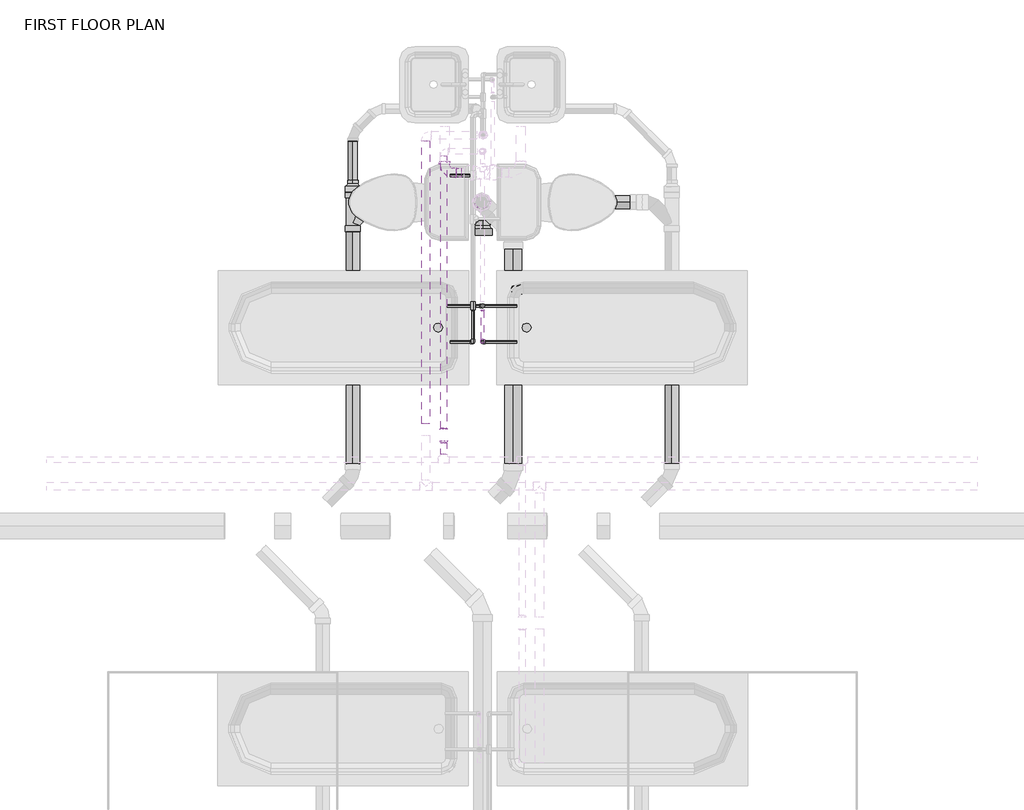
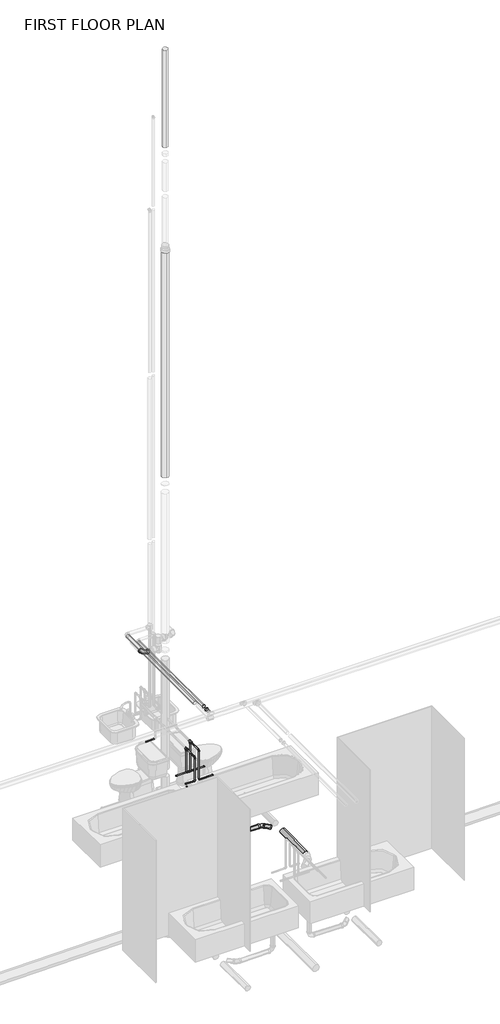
# One storey, part 8 of 29: 32 pipe segments, 25 pipe fittings.
"""IFC4 building model written with IfcOpenShell, lengths in millimetres."""

from ifc_helpers import new_model, si_unit, point, frame, frame_2d, origin, place, context, project, spatial, circle_curve, trimmed, segment, composite_curve, outline, extrude, transform, mapped, element, save
from ifc_brep_helpers import plane_surface, cylinder_surface, advanced_brep
from components import bend_pvc_sch_40_dwv_standard_e287c2f6, bend_pvc_sch_40_dwv_standard_e6a60135, bend_pvc_sch_40_dwv_standard_22595671, bend_pvc_sch_40_dwv_standard_3c7622ae, bend_pvc_sch_40_dwv_standard_00a057dc, bend_pvc_sch_40_dwv_standard_52eb40f7, bend_pvc_sch_40_dwv_standard_1eaeee76, pipe_elbow_copper_k_aad62f2d, pipe_tee_copper_k_ee363fbf, pipe_transition_copper_k_c7248b3c, pipe_transition_copper_k_3b8d3413, pipe_transition_copper_k_859ff352, reducer_pvc_sch_40_dwv_standard_f8e5081b, reducer_pvc_sch_40_dwv_standard_091619c8, reducer_pvc_sch_40_dwv_standard_bc2808fd, standard_97f78eeb

model = new_model("IFC4")

# Units and contexts
model_context = context("Model", 3, world=origin())
ifc_project = project(units=[si_unit("LENGTHUNIT", "METRE", prefix="MILLI")], contexts=[model_context])

# Site, building, storey
site = spatial("IfcSite", under=ifc_project)
building = spatial("IfcBuilding", under=site)
storey = spatial("IfcBuildingStorey", under=building, Name="FIRST FLOOR PLAN", Elevation=0.0)

# Pipe fittings
placement = place(None, origin())
bend_pvc_sch_40_dwv_standard_shape = bend_pvc_sch_40_dwv_standard_e287c2f6(model_context)
element("IfcPipeFitting", 1, ObjectType="Bend - PVC - Sch 40 - DWV : Standard", at=placement, inside=storey, context=model_context, shape_type="MappedRepresentation", body=[
    mapped(bend_pvc_sch_40_dwv_standard_shape, transform((2412.9110397, 6841.7915202, -501.945561), x_axis=(0.0, 0.0, -1.0), y_axis=(1.0, 0.0, 0.0), z_axis=(0.0, -1.0, 0.0))),
])
bend_pvc_sch_40_dwv_standard_2_shape = bend_pvc_sch_40_dwv_standard_e6a60135(model_context)
element("IfcPipeFitting", 2, ObjectType="Bend - PVC - Sch 40 - DWV : Standard", at=placement, inside=storey, context=model_context, shape_type="MappedRepresentation", body=[
    mapped(bend_pvc_sch_40_dwv_standard_2_shape, transform((2505.0170959, 7680.8696257, -495.5213745), x_axis=(0.0, -5.143823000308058e-07, -0.9999999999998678), y_axis=(1.0000000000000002, 5.3581489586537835e-09, 0.0), z_axis=(5.358148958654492e-09, -0.9999999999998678, 5.143823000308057e-07))),
])
bend_pvc_sch_40_dwv_standard_3_shape = bend_pvc_sch_40_dwv_standard_22595671(model_context)
element("IfcPipeFitting", 3, ObjectType="Bend - PVC - Sch 40 - DWV : Standard", at=placement, inside=storey, context=model_context, shape_type="MappedRepresentation", body=[
    mapped(bend_pvc_sch_40_dwv_standard_3_shape, transform((3187.2899795, 6841.7915202, -510.0120083), x_axis=(-0.7066279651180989, 0.7075155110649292, 0.009935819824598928), y_axis=(-0.7075086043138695, -0.7066884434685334, 0.004797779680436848), z_axis=(0.010416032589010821, -0.0036394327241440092, 0.9999391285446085))),
])
bend_pvc_sch_40_dwv_standard_4_shape = bend_pvc_sch_40_dwv_standard_3c7622ae(model_context)
element("IfcPipeFitting", 4, ObjectType="Bend - PVC - Sch 40 - DWV : Standard", at=placement, inside=storey, context=model_context, shape_type="MappedRepresentation", body=[
    mapped(bend_pvc_sch_40_dwv_standard_4_shape, transform((1821.2384766, 6841.9049735, -530.9283284), x_axis=(0.0, 0.0, -1.0), y_axis=(1.0, 0.0, 0.0), z_axis=(0.0, -1.0, 0.0))),
])
bend_pvc_sch_40_dwv_standard_5_shape = bend_pvc_sch_40_dwv_standard_00a057dc(model_context)
element("IfcPipeFitting", 5, ObjectType="Bend - PVC - Sch 40 - DWV : Standard", at=placement, inside=storey, context=model_context, shape_type="MappedRepresentation", body=[
    mapped(bend_pvc_sch_40_dwv_standard_5_shape, transform((1729.1325491, 7681.1279062, -524.5036134), x_axis=(0.0, -5.143823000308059e-07, -0.9999999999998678), y_axis=(1.0000000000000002, 5.358148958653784e-09, 0.0), z_axis=(5.358148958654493e-09, -0.9999999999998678, 5.143823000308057e-07))),
])
bend_pvc_sch_40_dwv_standard_6_shape = bend_pvc_sch_40_dwv_standard_52eb40f7(model_context)
element("IfcPipeFitting", 6, ObjectType="Bend - PVC - Sch 40 - DWV : Standard", at=placement, inside=storey, context=model_context, shape_type="MappedRepresentation", body=[
    mapped(bend_pvc_sch_40_dwv_standard_6_shape, transform((1448.7167163, 6841.9049735, -534.8087634), x_axis=(0.7066279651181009, 0.7075155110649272, 0.009935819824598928), y_axis=(-0.7075086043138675, 0.7066884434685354, -0.004797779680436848), z_axis=(-0.010416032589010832, -0.003639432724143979, 0.9999391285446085))),
])
bend_pvc_sch_40_dwv_standard_7_shape = bend_pvc_sch_40_dwv_standard_1eaeee76(model_context)
element("IfcPipeFitting", 7, ObjectType="Bend - PVC - Sch 40 - DWV : Standard", at=placement, inside=storey, context=model_context, shape_type="MappedRepresentation", body=[
    mapped(bend_pvc_sch_40_dwv_standard_7_shape, transform((1864.3084875, 7876.8887644, 2285.9990858), x_axis=(0.0, -0.9999999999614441, 8.781345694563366e-06), y_axis=(1.0000000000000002, 0.0, 0.0), z_axis=(0.0, 8.781345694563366e-06, 0.9999999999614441))),
])
pipe_elbow_copper_k_shape = pipe_elbow_copper_k_aad62f2d(model_context)
element("IfcPipeFitting", 8, ObjectType="Pipe Elbow : Copper- K", at=placement, inside=storey, context=model_context, shape_type="MappedRepresentation", body=[
    mapped(pipe_elbow_copper_k_shape, transform((2118.3084875, 6746.0012881, 1219.2), x_axis=(0.0, -1.0, 0.0), y_axis=(0.0, 0.0, -1.0), z_axis=(1.0, 0.0, 0.0))),
])
element("IfcPipeFitting", 9, ObjectType="Pipe Elbow : Copper- K", at=placement, inside=storey, context=model_context, shape_type="MappedRepresentation", body=[
    mapped(pipe_elbow_copper_k_shape, transform((2118.3084875, 6746.0012881, 711.2), x_axis=(0.0, 0.0, -1.0), y_axis=(1.0, 0.0, 0.0), z_axis=(0.0, -1.0, 0.0))),
])
element("IfcPipeFitting", 10, ObjectType="Pipe Elbow : Copper- K", at=placement, inside=storey, context=model_context, shape_type="MappedRepresentation", body=[
    mapped(pipe_elbow_copper_k_shape, transform((2118.3084875, 6986.022219, 711.2), x_axis=(0.0, 0.0, -1.0), y_axis=(-1.0, 0.0, 0.0), z_axis=(0.0, 1.0, 0.0))),
])
element("IfcPipeFitting", 11, ObjectType="Pipe Elbow : Copper- K", at=placement, inside=storey, context=model_context, shape_type="MappedRepresentation", body=[
    mapped(pipe_elbow_copper_k_shape, transform((2054.8084875, 6746.0012881, 1117.6), x_axis=(0.0, -1.0, 0.0), y_axis=(0.0, 0.0, -1.0), z_axis=(1.0, 0.0, 0.0))),
])
element("IfcPipeFitting", 12, ObjectType="Pipe Elbow : Copper- K", at=placement, inside=storey, context=model_context, shape_type="MappedRepresentation", body=[
    mapped(pipe_elbow_copper_k_shape, transform((2054.8084875, 6746.0012881, 711.2), x_axis=(0.0, 0.0, -1.0), y_axis=(-1.0, 0.0, 0.0), z_axis=(0.0, 1.0, 0.0))),
])
element("IfcPipeFitting", 13, ObjectType="Pipe Elbow : Copper- K", at=placement, inside=storey, context=model_context, shape_type="MappedRepresentation", body=[
    mapped(pipe_elbow_copper_k_shape, transform((2054.8084875, 6986.022219, 711.2), x_axis=(0.0, 0.0, -1.0), y_axis=(1.0, 0.0, 0.0), z_axis=(0.0, -1.0, 0.0))),
])
pipe_tee_copper_k_shape = pipe_tee_copper_k_ee363fbf(model_context)
element("IfcPipeFitting", 14, ObjectType="Pipe Tee : Copper- K", at=placement, inside=storey, context=model_context, shape_type="MappedRepresentation", body=[
    mapped(pipe_tee_copper_k_shape, transform((2118.3084875, 6986.022219, 1219.2), x_axis=(0.0, 1.0, 0.0), y_axis=(0.0, 0.0, 1.0), z_axis=(1.0, 0.0, 0.0))),
])
element("IfcPipeFitting", 15, ObjectType="Pipe Tee : Copper- K", at=placement, inside=storey, context=model_context, shape_type="MappedRepresentation", body=[
    mapped(pipe_tee_copper_k_shape, transform((2054.8084875, 6986.022219, 1117.6), x_axis=(0.0, 1.0, 0.0), y_axis=(0.0, 0.0, 1.0), z_axis=(1.0, 0.0, 0.0))),
])
pipe_transition_copper_k_shape = pipe_transition_copper_k_c7248b3c(model_context)
element("IfcPipeFitting", 16, ObjectType="Pipe Transition : Copper- K", at=placement, inside=storey, context=model_context, shape_type="MappedRepresentation", body=[
    mapped(pipe_transition_copper_k_shape, transform((1858.4146104, 6166.9606631, 2413.0), x_axis=(0.0, -1.0, 0.0), y_axis=(1.0, 0.0, 0.0), z_axis=(0.0, 0.0, 1.0))),
])
pipe_transition_copper_k_2_shape = pipe_transition_copper_k_3b8d3413(model_context)
element("IfcPipeFitting", 17, ObjectType="Pipe Transition : Copper- K", at=placement, inside=storey, context=model_context, shape_type="MappedRepresentation", body=[
    mapped(pipe_transition_copper_k_2_shape, transform((1858.4146104, 6082.4897881, 2413.0), x_axis=(0.0, -1.0, 0.0), y_axis=(0.9999997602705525, 0.0, 0.0006924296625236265), z_axis=(-0.0006924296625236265, 0.0, 0.9999997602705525))),
])
pipe_transition_copper_k_3_shape = pipe_transition_copper_k_859ff352(model_context)
element("IfcPipeFitting", 18, ObjectType="Pipe Transition : Copper- K", at=placement, inside=storey, context=model_context, shape_type="MappedRepresentation", body=[
    mapped(pipe_transition_copper_k_3_shape, transform((2118.3084875, 6986.022219, 1192.2125), x_axis=(0.0, 0.0, -1.0), y_axis=(0.0, -1.0, 0.0), z_axis=(-1.0, 0.0, 0.0))),
])
element("IfcPipeFitting", 19, ObjectType="Pipe Transition : Copper- K", at=placement, inside=storey, context=model_context, shape_type="MappedRepresentation", body=[
    mapped(pipe_transition_copper_k_3_shape, transform((2054.8084875, 6986.022219, 1090.6125), x_axis=(0.0, 0.0, -1.0), y_axis=(0.0, 1.0, 0.0), z_axis=(1.0, 0.0, 0.0))),
])
element("IfcPipeFitting", 20, ObjectType="Pipe Transition : Copper- K", at=placement, inside=storey, context=model_context, shape_type="MappedRepresentation", body=[
    mapped(pipe_transition_copper_k_3_shape, transform((2118.3084875, 6959.034719, 1219.2), x_axis=(0.0, -1.0, 0.0), y_axis=(1.0, 0.0, 0.0), z_axis=(0.0, 0.0, 1.0))),
])
element("IfcPipeFitting", 21, ObjectType="Pipe Transition : Copper- K", at=placement, inside=storey, context=model_context, shape_type="MappedRepresentation", body=[
    mapped(pipe_transition_copper_k_3_shape, transform((2054.8084875, 6959.034719, 1117.6), x_axis=(0.0, -1.0, 0.0), y_axis=(1.0, 0.0, 0.0), z_axis=(0.0, 0.0, 1.0))),
])
reducer_pvc_sch_40_dwv_standard_shape = reducer_pvc_sch_40_dwv_standard_f8e5081b(model_context)
element("IfcPipeFitting", 22, ObjectType="Reducer - PVC - Sch 40 - DWV : Standard", at=placement, inside=storey, context=model_context, shape_type="MappedRepresentation", body=[
    mapped(reducer_pvc_sch_40_dwv_standard_shape, transform((1250.8963953, 7748.2229992, -526.0862643), x_axis=(0.0, 0.9999457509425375, 0.010416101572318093), y_axis=(-0.9999457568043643, 0.00010848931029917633, -0.010414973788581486), z_axis=(-0.010415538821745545, -0.010415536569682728, 0.999891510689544))),
])
reducer_pvc_sch_40_dwv_standard_2_shape = reducer_pvc_sch_40_dwv_standard_091619c8(model_context)
element("IfcPipeFitting", 23, ObjectType="Reducer - PVC - Sch 40 - DWV : Standard", at=placement, inside=storey, context=model_context, shape_type="MappedRepresentation", body=[
    mapped(reducer_pvc_sch_40_dwv_standard_2_shape, transform((1448.5230746, 7681.127922, -524.7265597), x_axis=(0.9999457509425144, -2.1621181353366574e-07, 0.01041610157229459), y_axis=(-0.00010827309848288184, 0.9999457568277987, 0.010414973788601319), z_axis=(-0.010415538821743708, -0.010415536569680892, 0.9998915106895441))),
])
reducer_pvc_sch_40_dwv_standard_3_shape = reducer_pvc_sch_40_dwv_standard_bc2808fd(model_context)
element("IfcPipeFitting", 24, ObjectType="Reducer - PVC - Sch 40 - DWV : Standard", at=placement, inside=storey, context=model_context, shape_type="MappedRepresentation", body=[
    mapped(reducer_pvc_sch_40_dwv_standard_3_shape, transform((2118.3091433, 7565.6386101, -569.8984961), x_axis=(0.0, -0.9999999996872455, 2.501017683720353e-05), y_axis=(0.0, 2.501017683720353e-05, 0.9999999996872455), z_axis=(-1.0, 0.0, 0.0))),
])
standard_shape = standard_97f78eeb(model_context)
element("IfcPipeFitting", 25, ObjectType="GES Wye Combination with 8th Bend - PVC - Sch 40 - DWV : Standard", at=placement, inside=storey, context=model_context, shape_type="MappedRepresentation", body=[
    mapped(standard_shape, transform((1250.8963953, 7681.1279647, -526.7851709), x_axis=(0.0, 0.9999457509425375, 0.010416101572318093), y_axis=(0.9999457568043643, -0.00010848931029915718, 0.010414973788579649), z_axis=(0.010415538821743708, 0.010415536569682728, -0.999891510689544))),
])

# Pipe segments
element("IfcPipeSegment", 26, ObjectType="Copper", at=placement, inside=storey, context=model_context, shape_type="SweptSolid", body=[
    extrude(outline(composite_curve([segment(trimmed(circle_curve(frame_2d((2413.0, 1858.4146104)), 20.6375), [point((2413.0, 1879.0521104))], [point((2433.6375, 1858.4146104))], False, "CARTESIAN"), True, "CONTINUOUS"), segment(trimmed(circle_curve(frame_2d((2413.0, 1858.4146104)), 20.6375), [point((2433.6375, 1858.4146104))], [point((2413.0, 1837.7771104))], False, "CARTESIAN"), True, "CONTINUOUS"), segment(trimmed(circle_curve(frame_2d((2413.0, 1858.4146104)), 20.6375), [point((2413.0, 1837.7771104))], [point((2392.3625, 1858.4146104))], False, "CARTESIAN"), True, "CONTINUOUS"), segment(trimmed(circle_curve(frame_2d((2413.0, 1858.4146104)), 20.6375), [point((2392.3625, 1858.4146104))], [point((2413.0, 1879.0521104))], False, "CARTESIAN"), True, "CONTINUOUS")], self_intersect=False)), frame((0.0, 6166.9606631, 0.0), z_axis=(0.0, 1.0, 0.0), x_axis=(0.0, 0.0, 1.0)), (0.0, 0.0, 1.0), 1824.0375),
])
element("IfcPipeSegment", 27, ObjectType="Copper", at=placement, inside=storey, context=model_context, shape_type="SweptSolid", body=[
    extrude(outline(composite_curve([segment(trimmed(circle_curve(frame_2d((2490.6882812, 1739.2624243)), 26.9875), [point((2490.6882812, 1766.2499243))], [point((2517.6757812, 1739.2624243))], False, "CARTESIAN"), True, "CONTINUOUS"), segment(trimmed(circle_curve(frame_2d((2490.6882812, 1739.2624243)), 26.9875), [point((2517.6757812, 1739.2624243))], [point((2490.6882812, 1712.2749243))], False, "CARTESIAN"), True, "CONTINUOUS"), segment(trimmed(circle_curve(frame_2d((2490.6882812, 1739.2624243)), 26.9875), [point((2490.6882812, 1712.2749243))], [point((2463.7007812, 1739.2624243))], False, "CARTESIAN"), True, "CONTINUOUS"), segment(trimmed(circle_curve(frame_2d((2490.6882812, 1739.2624243)), 26.9875), [point((2463.7007812, 1739.2624243))], [point((2490.6882812, 1766.2499243))], False, "CARTESIAN"), True, "CONTINUOUS")], self_intersect=False)), frame((0.0, 6199.0757881, 0.0), z_axis=(0.0, 1.0, 0.0), x_axis=(0.0, 0.0, 1.0)), (0.0, 0.0, 1.0), 1893.8875),
])
element("IfcPipeSegment", 28, ObjectType="Copper", at=placement, inside=storey, context=model_context, shape_type="SweptSolid", body=[
    extrude(outline(composite_curve([segment(trimmed(circle_curve(frame_2d((2413.0, 1858.4146104)), 20.6375), [point((2413.0, 1837.7771104))], [point((2392.3625, 1858.4146104))], False, "CARTESIAN"), True, "CONTINUOUS"), segment(trimmed(circle_curve(frame_2d((2413.0, 1858.4146104)), 20.6375), [point((2392.3625, 1858.4146104))], [point((2413.0, 1879.0521104))], False, "CARTESIAN"), True, "CONTINUOUS"), segment(trimmed(circle_curve(frame_2d((2413.0, 1858.4146104)), 20.6375), [point((2413.0, 1879.0521104))], [point((2433.6375, 1858.4146104))], False, "CARTESIAN"), True, "CONTINUOUS"), segment(trimmed(circle_curve(frame_2d((2413.0, 1858.4146104)), 20.6375), [point((2433.6375, 1858.4146104))], [point((2413.0, 1837.7771104))], False, "CARTESIAN"), True, "CONTINUOUS")], self_intersect=False)), frame((0.0, 5992.5300381, 0.0), z_axis=(0.0, 1.0, 0.0), x_axis=(0.0, 0.0, 1.0)), (0.0, 0.0, 1.0), 76.466),
])
element("IfcPipeSegment", 29, ObjectType="Copper", at=placement, inside=storey, context=model_context, shape_type="SweptSolid", body=[
    extrude(outline(composite_curve([segment(trimmed(circle_curve(frame_2d((1219.2, 2118.3084875)), 7.9375), [point((1219.2, 2110.3709875))], [point((1211.2625, 2118.3084875))], False, "CARTESIAN"), True, "CONTINUOUS"), segment(trimmed(circle_curve(frame_2d((1219.2, 2118.3084875)), 7.9375), [point((1211.2625, 2118.3084875))], [point((1219.2, 2126.2459875))], False, "CARTESIAN"), True, "CONTINUOUS"), segment(trimmed(circle_curve(frame_2d((1219.2, 2118.3084875)), 7.9375), [point((1219.2, 2126.2459875))], [point((1227.1375, 2118.3084875))], False, "CARTESIAN"), True, "CONTINUOUS"), segment(trimmed(circle_curve(frame_2d((1219.2, 2118.3084875)), 7.9375), [point((1227.1375, 2118.3084875))], [point((1219.2, 2110.3709875))], False, "CARTESIAN"), True, "CONTINUOUS")], self_intersect=False)), frame((0.0, 6763.4637881, 0.0), z_axis=(0.0, 1.0, 0.0), x_axis=(0.0, 0.0, 1.0)), (0.0, 0.0, 1.0), 190.0146809),
])
element("IfcPipeSegment", 30, ObjectType="Copper", at=placement, inside=storey, context=model_context, shape_type="SweptSolid", body=[
    extrude(outline(composite_curve([segment(trimmed(circle_curve(frame_2d((7859.3528944, 762.0)), 7.9375), [point((7867.2903944, 762.0))], [point((7859.3528944, 754.0625))], False, "CARTESIAN"), True, "CONTINUOUS"), segment(trimmed(circle_curve(frame_2d((7859.3528944, 762.0)), 7.9375), [point((7859.3528944, 754.0625))], [point((7851.4153944, 762.0))], False, "CARTESIAN"), True, "CONTINUOUS"), segment(trimmed(circle_curve(frame_2d((7859.3528944, 762.0)), 7.9375), [point((7851.4153944, 762.0))], [point((7859.3528944, 769.9375))], False, "CARTESIAN"), True, "CONTINUOUS"), segment(trimmed(circle_curve(frame_2d((7859.3528944, 762.0)), 7.9375), [point((7859.3528944, 769.9375))], [point((7867.2903944, 762.0))], False, "CARTESIAN"), True, "CONTINUOUS")], self_intersect=False)), frame((1902.4084875, 0.0, 0.0), z_axis=(1.0, 0.0, 0.0), x_axis=(0.0, 1.0, 0.0)), (0.0, 0.0, 1.0), 134.9375),
])
element("IfcPipeSegment", 31, ObjectType="Copper", at=placement, inside=storey, context=model_context, shape_type="SweptSolid", body=[
    extrude(outline(composite_curve([segment(trimmed(circle_curve(frame_2d((6746.0012881, 711.2)), 7.9375), [point((6738.0637881, 711.2))], [point((6746.0012881, 719.1375))], False, "CARTESIAN"), True, "CONTINUOUS"), segment(trimmed(circle_curve(frame_2d((6746.0012881, 711.2)), 7.9375), [point((6746.0012881, 719.1375))], [point((6753.9387881, 711.2))], False, "CARTESIAN"), True, "CONTINUOUS"), segment(trimmed(circle_curve(frame_2d((6746.0012881, 711.2)), 7.9375), [point((6753.9387881, 711.2))], [point((6746.0012881, 703.2625))], False, "CARTESIAN"), True, "CONTINUOUS"), segment(trimmed(circle_curve(frame_2d((6746.0012881, 711.2)), 7.9375), [point((6746.0012881, 703.2625))], [point((6738.0637881, 711.2))], False, "CARTESIAN"), True, "CONTINUOUS")], self_intersect=False)), frame((2135.7709875, 0.0, 0.0), z_axis=(1.0, 0.0, 0.0), x_axis=(0.0, 1.0, 0.0)), (0.0, 0.0, 1.0), 211.1375),
])
element("IfcPipeSegment", 32, ObjectType="Copper", at=placement, inside=storey, context=model_context, shape_type="SweptSolid", body=[
    extrude(outline(composite_curve([segment(trimmed(circle_curve(frame_2d((2118.3084875, 6746.0012881)), 7.9375), [point((2126.2459875, 6746.0012881))], [point((2118.3084875, 6738.0637881))], False, "CARTESIAN"), True, "CONTINUOUS"), segment(trimmed(circle_curve(frame_2d((2118.3084875, 6746.0012881)), 7.9375), [point((2118.3084875, 6738.0637881))], [point((2110.3709875, 6746.0012881))], False, "CARTESIAN"), True, "CONTINUOUS"), segment(trimmed(circle_curve(frame_2d((2118.3084875, 6746.0012881)), 7.9375), [point((2110.3709875, 6746.0012881))], [point((2118.3084875, 6753.9387881))], False, "CARTESIAN"), True, "CONTINUOUS"), segment(trimmed(circle_curve(frame_2d((2118.3084875, 6746.0012881)), 7.9375), [point((2118.3084875, 6753.9387881))], [point((2126.2459875, 6746.0012881))], False, "CARTESIAN"), True, "CONTINUOUS")], self_intersect=False)), frame((0.0, 0.0, 728.6625), z_axis=(0.0, 0.0, 1.0), x_axis=(1.0, 0.0, 0.0)), (0.0, 0.0, 1.0), 473.075),
])
element("IfcPipeSegment", 33, ObjectType="Copper", at=placement, inside=storey, context=model_context, shape_type="SweptSolid", body=[
    extrude(outline(composite_curve([segment(trimmed(circle_curve(frame_2d((6986.022219, 711.2)), 7.9375), [point((6993.959719, 711.2))], [point((6986.022219, 703.2625))], False, "CARTESIAN"), True, "CONTINUOUS"), segment(trimmed(circle_curve(frame_2d((6986.022219, 711.2)), 7.9375), [point((6986.022219, 703.2625))], [point((6978.084719, 711.2))], False, "CARTESIAN"), True, "CONTINUOUS"), segment(trimmed(circle_curve(frame_2d((6986.022219, 711.2)), 7.9375), [point((6978.084719, 711.2))], [point((6986.022219, 719.1375))], False, "CARTESIAN"), True, "CONTINUOUS"), segment(trimmed(circle_curve(frame_2d((6986.022219, 711.2)), 7.9375), [point((6986.022219, 719.1375))], [point((6993.959719, 711.2))], False, "CARTESIAN"), True, "CONTINUOUS")], self_intersect=False)), frame((1883.3584875, 0.0, 0.0), z_axis=(1.0, 0.0, 0.0), x_axis=(0.0, 1.0, 0.0)), (0.0, 0.0, 1.0), 217.4875),
])
element("IfcPipeSegment", 34, ObjectType="Copper", at=placement, inside=storey, context=model_context, shape_type="SweptSolid", body=[
    extrude(outline(composite_curve([segment(trimmed(circle_curve(frame_2d((2118.3084875, 6986.022219)), 7.9375), [point((2126.2459875, 6986.022219))], [point((2118.3084875, 6978.084719))], False, "CARTESIAN"), True, "CONTINUOUS"), segment(trimmed(circle_curve(frame_2d((2118.3084875, 6986.022219)), 7.9375), [point((2118.3084875, 6978.084719))], [point((2110.3709875, 6986.022219))], False, "CARTESIAN"), True, "CONTINUOUS"), segment(trimmed(circle_curve(frame_2d((2118.3084875, 6986.022219)), 7.9375), [point((2110.3709875, 6986.022219))], [point((2118.3084875, 6993.959719))], False, "CARTESIAN"), True, "CONTINUOUS"), segment(trimmed(circle_curve(frame_2d((2118.3084875, 6986.022219)), 7.9375), [point((2118.3084875, 6993.959719))], [point((2126.2459875, 6986.022219))], False, "CARTESIAN"), True, "CONTINUOUS")], self_intersect=False)), frame((0.0, 0.0, 728.6625), z_axis=(0.0, 0.0, 1.0), x_axis=(1.0, 0.0, 0.0)), (0.0, 0.0, 1.0), 457.99375),
])
element("IfcPipeSegment", 35, ObjectType="Copper", at=placement, inside=storey, context=model_context, shape_type="SweptSolid", body=[
    extrude(outline(composite_curve([segment(trimmed(circle_curve(frame_2d((1117.6, 2054.8084875)), 7.9375), [point((1117.6, 2046.8709875))], [point((1109.6625, 2054.8084875))], False, "CARTESIAN"), True, "CONTINUOUS"), segment(trimmed(circle_curve(frame_2d((1117.6, 2054.8084875)), 7.9375), [point((1109.6625, 2054.8084875))], [point((1117.6, 2062.7459875))], False, "CARTESIAN"), True, "CONTINUOUS"), segment(trimmed(circle_curve(frame_2d((1117.6, 2054.8084875)), 7.9375), [point((1117.6, 2062.7459875))], [point((1125.5375, 2054.8084875))], False, "CARTESIAN"), True, "CONTINUOUS"), segment(trimmed(circle_curve(frame_2d((1117.6, 2054.8084875)), 7.9375), [point((1125.5375, 2054.8084875))], [point((1117.6, 2046.8709875))], False, "CARTESIAN"), True, "CONTINUOUS")], self_intersect=False)), frame((0.0, 6763.4637881, 0.0), z_axis=(0.0, 1.0, 0.0), x_axis=(0.0, 0.0, 1.0)), (0.0, 0.0, 1.0), 190.0146809),
])
element("IfcPipeSegment", 36, ObjectType="Copper", at=placement, inside=storey, context=model_context, shape_type="SweptSolid", body=[
    extrude(outline(composite_curve([segment(trimmed(circle_curve(frame_2d((6746.0012881, 711.2)), 7.9375), [point((6753.9387881, 711.2))], [point((6746.0012881, 703.2625))], False, "CARTESIAN"), True, "CONTINUOUS"), segment(trimmed(circle_curve(frame_2d((6746.0012881, 711.2)), 7.9375), [point((6746.0012881, 703.2625))], [point((6738.0637881, 711.2))], False, "CARTESIAN"), True, "CONTINUOUS"), segment(trimmed(circle_curve(frame_2d((6746.0012881, 711.2)), 7.9375), [point((6738.0637881, 711.2))], [point((6746.0012881, 719.1375))], False, "CARTESIAN"), True, "CONTINUOUS"), segment(trimmed(circle_curve(frame_2d((6746.0012881, 711.2)), 7.9375), [point((6746.0012881, 719.1375))], [point((6753.9387881, 711.2))], False, "CARTESIAN"), True, "CONTINUOUS")], self_intersect=False)), frame((1902.4084875, 0.0, 0.0), z_axis=(1.0, 0.0, 0.0), x_axis=(0.0, 1.0, 0.0)), (0.0, 0.0, 1.0), 134.9375),
])
element("IfcPipeSegment", 37, ObjectType="Copper", at=placement, inside=storey, context=model_context, shape_type="SweptSolid", body=[
    extrude(outline(composite_curve([segment(trimmed(circle_curve(frame_2d((2054.8084875, 6746.0012881)), 7.9375), [point((2062.7459875, 6746.0012881))], [point((2054.8084875, 6738.0637881))], False, "CARTESIAN"), True, "CONTINUOUS"), segment(trimmed(circle_curve(frame_2d((2054.8084875, 6746.0012881)), 7.9375), [point((2054.8084875, 6738.0637881))], [point((2046.8709875, 6746.0012881))], False, "CARTESIAN"), True, "CONTINUOUS"), segment(trimmed(circle_curve(frame_2d((2054.8084875, 6746.0012881)), 7.9375), [point((2046.8709875, 6746.0012881))], [point((2054.8084875, 6753.9387881))], False, "CARTESIAN"), True, "CONTINUOUS"), segment(trimmed(circle_curve(frame_2d((2054.8084875, 6746.0012881)), 7.9375), [point((2054.8084875, 6753.9387881))], [point((2062.7459875, 6746.0012881))], False, "CARTESIAN"), True, "CONTINUOUS")], self_intersect=False)), frame((0.0, 0.0, 728.6625), z_axis=(0.0, 0.0, 1.0), x_axis=(1.0, 0.0, 0.0)), (0.0, 0.0, 1.0), 371.475),
])
element("IfcPipeSegment", 38, ObjectType="Copper", at=placement, inside=storey, context=model_context, shape_type="SweptSolid", body=[
    extrude(outline(composite_curve([segment(trimmed(circle_curve(frame_2d((6986.022219, 711.2)), 7.9375), [point((6978.084719, 711.2))], [point((6986.022219, 719.1375))], False, "CARTESIAN"), True, "CONTINUOUS"), segment(trimmed(circle_curve(frame_2d((6986.022219, 711.2)), 7.9375), [point((6986.022219, 719.1375))], [point((6993.959719, 711.2))], False, "CARTESIAN"), True, "CONTINUOUS"), segment(trimmed(circle_curve(frame_2d((6986.022219, 711.2)), 7.9375), [point((6993.959719, 711.2))], [point((6986.022219, 703.2625))], False, "CARTESIAN"), True, "CONTINUOUS"), segment(trimmed(circle_curve(frame_2d((6986.022219, 711.2)), 7.9375), [point((6986.022219, 703.2625))], [point((6978.084719, 711.2))], False, "CARTESIAN"), True, "CONTINUOUS")], self_intersect=False)), frame((2072.2709875, 0.0, 0.0), z_axis=(1.0, 0.0, 0.0), x_axis=(0.0, 1.0, 0.0)), (0.0, 0.0, 1.0), 274.6375),
])
element("IfcPipeSegment", 39, ObjectType="Copper", at=placement, inside=storey, context=model_context, shape_type="SweptSolid", body=[
    extrude(outline(composite_curve([segment(trimmed(circle_curve(frame_2d((2054.8084875, 6986.022219)), 7.9375), [point((2062.7459875, 6986.022219))], [point((2054.8084875, 6978.084719))], False, "CARTESIAN"), True, "CONTINUOUS"), segment(trimmed(circle_curve(frame_2d((2054.8084875, 6986.022219)), 7.9375), [point((2054.8084875, 6978.084719))], [point((2046.8709875, 6986.022219))], False, "CARTESIAN"), True, "CONTINUOUS"), segment(trimmed(circle_curve(frame_2d((2054.8084875, 6986.022219)), 7.9375), [point((2046.8709875, 6986.022219))], [point((2054.8084875, 6993.959719))], False, "CARTESIAN"), True, "CONTINUOUS"), segment(trimmed(circle_curve(frame_2d((2054.8084875, 6986.022219)), 7.9375), [point((2054.8084875, 6993.959719))], [point((2062.7459875, 6986.022219))], False, "CARTESIAN"), True, "CONTINUOUS")], self_intersect=False)), frame((0.0, 0.0, 728.6625), z_axis=(0.0, 0.0, 1.0), x_axis=(1.0, 0.0, 0.0)), (0.0, 0.0, 1.0), 356.39375),
])
element("IfcPipeSegment", 40, ObjectType="PVC - SAN/STORM", at=placement, inside=storey, context=model_context, shape_type="SweptSolid", body=[
    extrude(outline(composite_curve([segment(trimmed(circle_curve(frame_2d((0.0, -44.4500001)), 44.45), [point((-44.4500001, -44.4499993))], [point((7e-07, 0.0))], False, "CARTESIAN"), True, "CONTINUOUS"), segment(trimmed(circle_curve(frame_2d((0.0, -44.4500001)), 44.45), [point((7e-07, 0.0))], [point((44.45, -44.4500008))], False, "CARTESIAN"), True, "CONTINUOUS"), segment(trimmed(circle_curve(frame_2d((0.0, -44.4500001)), 44.45), [point((44.45, -44.4500008))], [point((-8e-07, -88.9))], False, "CARTESIAN"), True, "CONTINUOUS"), segment(trimmed(circle_curve(frame_2d((0.0, -44.4500001)), 44.45), [point((-8e-07, -88.9))], [point((-44.4500001, -44.4499993))], False, "CARTESIAN"), True, "CONTINUOUS")], self_intersect=False)), frame((2505.0170959, 7636.4196859, -379.6141502), z_axis=(-0.00010864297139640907, 0.00015802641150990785, 0.999999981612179), x_axis=(-0.9999999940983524, -1.7168460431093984e-08, -0.00010864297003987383)), (0.0, 0.0, 1.0), 432.4151865),
])
element("IfcPipeSegment", 41, ObjectType="PVC - SAN/STORM", at=placement, inside=storey, context=model_context, shape_type="SweptSolid", body=[
    extrude(outline(composite_curve([segment(trimmed(circle_curve(frame_2d((0.0, -44.45)), 44.45), [point((0.0, -88.9))], [point((-44.45, -44.45))], False, "CARTESIAN"), True, "CONTINUOUS"), segment(trimmed(circle_curve(frame_2d((0.0, -44.45)), 44.45), [point((-44.45, -44.45))], [point((0.0, 0.0))], False, "CARTESIAN"), True, "CONTINUOUS"), segment(trimmed(circle_curve(frame_2d((0.0, -44.45)), 44.45), [point((0.0, 0.0))], [point((44.45, -44.45))], False, "CARTESIAN"), True, "CONTINUOUS"), segment(trimmed(circle_curve(frame_2d((0.0, -44.45)), 44.45), [point((44.45, -44.45))], [point((0.0, -88.9))], False, "CARTESIAN"), True, "CONTINUOUS")], self_intersect=False)), frame((3104.8125398, 7725.3196257, -501.7692437), z_axis=(-0.9999457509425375, 0.0, 0.010416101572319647), x_axis=(0.010416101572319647, 0.0, 0.9999457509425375)), (0.0, 0.0, 1.0), 483.9277839),
])
element("IfcPipeSegment", 42, ObjectType="PVC - SAN/STORM", at=placement, inside=storey, context=model_context, shape_type="SweptSolid", body=[
    extrude(outline(composite_curve([segment(trimmed(circle_curve(frame_2d((0.0, -30.1625)), 30.1625), [point((-30.1625001, -30.1624986))], [point((1.4e-06, 0.0))], False, "CARTESIAN"), True, "CONTINUOUS"), segment(trimmed(circle_curve(frame_2d((0.0, -30.1625)), 30.1625), [point((1.4e-06, 0.0))], [point((30.1625, -30.1625014))], False, "CARTESIAN"), True, "CONTINUOUS"), segment(trimmed(circle_curve(frame_2d((0.0, -30.1625)), 30.1625), [point((30.1625, -30.1625014))], [point((-1.5e-06, -60.325))], False, "CARTESIAN"), True, "CONTINUOUS"), segment(trimmed(circle_curve(frame_2d((0.0, -30.1625)), 30.1625), [point((-1.5e-06, -60.325))], [point((-30.1625001, -30.1624986))], False, "CARTESIAN"), True, "CONTINUOUS")], self_intersect=False)), frame((2412.9110397, 6811.6290213, -424.1372543), z_axis=(-0.000174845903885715, 0.0002687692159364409, 0.9999999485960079), x_axis=(-0.9999999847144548, -4.699319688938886e-08, -0.0001748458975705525)), (0.0, 0.0, 1.0), 476.9392962),
])
element("IfcPipeSegment", 43, ObjectType="PVC - SAN/STORM", at=placement, inside=storey, context=model_context, shape_type="SweptSolid", body=[
    extrude(outline(composite_curve([segment(trimmed(circle_curve(frame_2d((0.0, -30.1625)), 30.1625), [point((0.0, -60.325))], [point((-30.1625, -30.1625))], False, "CARTESIAN"), True, "CONTINUOUS"), segment(trimmed(circle_curve(frame_2d((0.0, -30.1625)), 30.1625), [point((-30.1625, -30.1625))], [point((0.0, 0.0))], False, "CARTESIAN"), True, "CONTINUOUS"), segment(trimmed(circle_curve(frame_2d((0.0, -30.1625)), 30.1625), [point((0.0, 0.0))], [point((30.1625, -30.1625))], False, "CARTESIAN"), True, "CONTINUOUS"), segment(trimmed(circle_curve(frame_2d((0.0, -30.1625)), 30.1625), [point((30.1625, -30.1625))], [point((0.0, -60.325))], False, "CARTESIAN"), True, "CONTINUOUS")], self_intersect=False)), frame((3134.8926222, 6871.9540202, -509.4662025), z_axis=(-0.9999457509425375, 0.0, 0.01041610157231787), x_axis=(0.01041610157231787, 0.0, 0.9999457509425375)), (0.0, 0.0, 1.0), 644.2205514),
])
element("IfcPipeSegment", 44, ObjectType="PVC - SAN/STORM", at=placement, inside=storey, context=model_context, shape_type="SweptSolid", body=[
    extrude(outline(composite_curve([segment(trimmed(circle_curve(frame_2d((0.0, -30.1625)), 30.1625), [point((-30.161015, -30.4617985))], [point((-0.2992985, -0.001485))], False, "CARTESIAN"), True, "CONTINUOUS"), segment(trimmed(circle_curve(frame_2d((0.0, -30.1625)), 30.1625), [point((-0.2992985, -0.001485))], [point((30.161015, -29.8632015))], False, "CARTESIAN"), True, "CONTINUOUS"), segment(trimmed(circle_curve(frame_2d((0.0, -30.1625)), 30.1625), [point((30.161015, -29.8632015))], [point((0.2992985, -60.3235151))], False, "CARTESIAN"), True, "CONTINUOUS"), segment(trimmed(circle_curve(frame_2d((0.0, -30.1625)), 30.1625), [point((0.2992985, -60.3235151))], [point((-30.161015, -30.4617985))], False, "CARTESIAN"), True, "CONTINUOUS")], self_intersect=False)), frame((3288.7825611, 6740.5949988, -541.5986108), z_axis=(-0.7066279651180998, 0.7075155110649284, 0.009935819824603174), x_axis=(0.7075852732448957, 0.7065582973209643, 0.009922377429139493)), (0.0, 0.0, 1.0), 91.2292438),
])
element("IfcPipeSegment", 45, ObjectType="PVC - SAN/STORM", at=placement, inside=storey, context=model_context, shape_type="SweptSolid", body=[
    extrude(outline(composite_curve([segment(trimmed(circle_curve(frame_2d((0.0, -44.45)), 44.45), [point((-44.45, -44.45))], [point((0.0, 0.0))], False, "CARTESIAN"), True, "CONTINUOUS"), segment(trimmed(circle_curve(frame_2d((0.0, -44.45)), 44.45), [point((0.0, 0.0))], [point((44.45, -44.45))], False, "CARTESIAN"), True, "CONTINUOUS"), segment(trimmed(circle_curve(frame_2d((0.0, -44.45)), 44.45), [point((44.45, -44.45))], [point((0.0, -88.8999999))], False, "CARTESIAN"), True, "CONTINUOUS"), segment(trimmed(circle_curve(frame_2d((0.0, -44.45)), 44.45), [point((0.0, -88.8999999))], [point((-44.45, -44.45))], False, "CARTESIAN"), True, "CONTINUOUS")], self_intersect=False)), frame((3385.2549441, 5930.9590722, -564.6710967), z_axis=(0.0, 0.9999457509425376, 0.0104161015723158), x_axis=(1.0, 0.0, 0.0)), (0.0, 0.0, 1.0), 652.7955154),
])
element("IfcPipeSegment", 46, ObjectType="PVC - SAN/STORM", at=placement, inside=storey, context=model_context, shape_type="SweptSolid", body=[
    extrude(outline(composite_curve([segment(trimmed(circle_curve(frame_2d((0.0, -44.45)), 44.45), [point((-44.45, -44.4500003))], [point((-3e-07, 0.0))], False, "CARTESIAN"), True, "CONTINUOUS"), segment(trimmed(circle_curve(frame_2d((0.0, -44.45)), 44.45), [point((-3e-07, 0.0))], [point((44.4500001, -44.4499996))], False, "CARTESIAN"), True, "CONTINUOUS"), segment(trimmed(circle_curve(frame_2d((0.0, -44.45)), 44.45), [point((44.4500001, -44.4499996))], [point((4e-07, -88.9))], False, "CARTESIAN"), True, "CONTINUOUS"), segment(trimmed(circle_curve(frame_2d((0.0, -44.45)), 44.45), [point((4e-07, -88.9))], [point((-44.45, -44.4500003))], False, "CARTESIAN"), True, "CONTINUOUS")], self_intersect=False)), frame((1729.1325491, 7636.677966, -408.5994823), z_axis=(8.773379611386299e-05, 8.843881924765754e-05, 0.9999999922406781), x_axis=(-0.9999999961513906, 7.759073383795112e-09, 8.773379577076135e-05)), (0.0, 0.0, 1.0), 461.3974158),
])
element("IfcPipeSegment", 47, ObjectType="PVC - SAN/STORM", at=placement, inside=storey, context=model_context, shape_type="SweptSolid", body=[
    extrude(outline(composite_curve([segment(trimmed(circle_curve(frame_2d((-1e-07, -44.45)), 44.45), [point((-4.58e-05, 0.0))], [point((44.45, -44.4499543))], False, "CARTESIAN"), True, "CONTINUOUS"), segment(trimmed(circle_curve(frame_2d((-1e-07, -44.45)), 44.45), [point((44.45, -44.4499543))], [point((4.57e-05, -88.9))], False, "CARTESIAN"), True, "CONTINUOUS"), segment(trimmed(circle_curve(frame_2d((-1e-07, -44.45)), 44.45), [point((4.57e-05, -88.9))], [point((-44.45, -44.4500457))], False, "CARTESIAN"), True, "CONTINUOUS"), segment(trimmed(circle_curve(frame_2d((-1e-07, -44.45)), 44.45), [point((-44.45, -44.4500457))], [point((-4.58e-05, 0.0))], False, "CARTESIAN"), True, "CONTINUOUS")], self_intersect=False)), frame((1531.3387996, 7725.5779041, -526.5640107), z_axis=(0.9999457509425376, 1.0715712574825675e-08, 0.010416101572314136), x_axis=(0.010416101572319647, -1.0287084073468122e-06, -0.9999457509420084)), (0.0, 0.0, 1.0), 81.9042802),
])
element("IfcPipeSegment", 48, ObjectType="PVC - SAN/STORM", at=placement, inside=storey, context=model_context, shape_type="SweptSolid", body=[
    extrude(outline(composite_curve([segment(trimmed(circle_curve(frame_2d((0.0, -30.1625)), 30.1625), [point((-30.1625001, -30.162501))], [point((-1e-06, 0.0))], False, "CARTESIAN"), True, "CONTINUOUS"), segment(trimmed(circle_curve(frame_2d((0.0, -30.1625)), 30.1625), [point((-1e-06, 0.0))], [point((30.1625, -30.1624991))], False, "CARTESIAN"), True, "CONTINUOUS"), segment(trimmed(circle_curve(frame_2d((0.0, -30.1625)), 30.1625), [point((30.1625, -30.1624991))], [point((1e-06, -60.325))], False, "CARTESIAN"), True, "CONTINUOUS"), segment(trimmed(circle_curve(frame_2d((0.0, -30.1625)), 30.1625), [point((1e-06, -60.325))], [point((-30.1625001, -30.162501))], False, "CARTESIAN"), True, "CONTINUOUS")], self_intersect=False)), frame((1821.2384766, 6811.7424741, -453.1219033), z_axis=(0.00015555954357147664, 0.00020638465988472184, 0.9999999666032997), x_axis=(-0.9999999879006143, 3.210510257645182e-08, 0.00015555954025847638)), (0.0, 0.0, 1.0), 505.9220493),
])
element("IfcPipeSegment", 49, ObjectType="PVC - SAN/STORM", at=placement, inside=storey, context=model_context, shape_type="SweptSolid", body=[
    extrude(outline(composite_curve([segment(trimmed(circle_curve(frame_2d((0.0, -30.1625)), 30.1625), [point((0.0, 0.0))], [point((30.1625001, -30.1625))], False, "CARTESIAN"), True, "CONTINUOUS"), segment(trimmed(circle_curve(frame_2d((0.0, -30.1625)), 30.1625), [point((30.1625001, -30.1625))], [point((0.0, -60.325))], False, "CARTESIAN"), True, "CONTINUOUS"), segment(trimmed(circle_curve(frame_2d((0.0, -30.1625)), 30.1625), [point((0.0, -60.325))], [point((-30.1625, -30.1625))], False, "CARTESIAN"), True, "CONTINUOUS"), segment(trimmed(circle_curve(frame_2d((0.0, -30.1625)), 30.1625), [point((-30.1625, -30.1625))], [point((0.0, 0.0))], False, "CARTESIAN"), True, "CONTINUOUS")], self_intersect=False)), frame((1501.1140737, 6872.0674735, -534.2629575), z_axis=(0.9999457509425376, 0.0, 0.01041610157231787), x_axis=(0.01041610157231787, 0.0, -0.9999457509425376)), (0.0, 0.0, 1.0), 242.3415703),
])
element("IfcPipeSegment", 50, ObjectType="PVC - SAN/STORM", at=placement, inside=storey, context=model_context, shape_type="SweptSolid", body=[
    extrude(outline(composite_curve([segment(trimmed(circle_curve(frame_2d((0.0, -30.1625)), 30.1625), [point((-30.1610151, -29.8632015))], [point((0.2992985, -0.001485))], False, "CARTESIAN"), True, "CONTINUOUS"), segment(trimmed(circle_curve(frame_2d((0.0, -30.1625)), 30.1625), [point((0.2992985, -0.001485))], [point((30.161015, -30.4617985))], False, "CARTESIAN"), True, "CONTINUOUS"), segment(trimmed(circle_curve(frame_2d((0.0, -30.1625)), 30.1625), [point((30.161015, -30.4617985))], [point((-0.2992985, -60.323515))], False, "CARTESIAN"), True, "CONTINUOUS"), segment(trimmed(circle_curve(frame_2d((0.0, -30.1625)), 30.1625), [point((-0.2992985, -60.323515))], [point((-30.1610151, -29.8632015))], False, "CARTESIAN"), True, "CONTINUOUS")], self_intersect=False)), frame((1347.3687782, 6740.8532771, -566.393332), z_axis=(0.7066279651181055, 0.7075155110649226, 0.009935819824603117), x_axis=(0.70758527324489, -0.7065582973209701, -0.009922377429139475)), (0.0, 0.0, 1.0), 91.0245485),
])
element("IfcPipeSegment", 51, ObjectType="PVC - SAN/STORM", at=placement, inside=storey, context=model_context, shape_type="SweptSolid", body=[
    extrude(outline(composite_curve([segment(trimmed(circle_curve(frame_2d((0.0, -30.1625)), 30.1625), [point((-30.1625, -30.1625))], [point((0.0, 0.0))], False, "CARTESIAN"), True, "CONTINUOUS"), segment(trimmed(circle_curve(frame_2d((0.0, -30.1625)), 30.1625), [point((0.0, 0.0))], [point((30.1625, -30.1625))], False, "CARTESIAN"), True, "CONTINUOUS"), segment(trimmed(circle_curve(frame_2d((0.0, -30.1625)), 30.1625), [point((30.1625, -30.1625))], [point((0.0, -60.325))], False, "CARTESIAN"), True, "CONTINUOUS"), segment(trimmed(circle_curve(frame_2d((0.0, -30.1625)), 30.1625), [point((0.0, -60.325))], [point((-30.1625, -30.1625))], False, "CARTESIAN"), True, "CONTINUOUS")], self_intersect=False)), frame((1250.8963953, 7827.9078689, -555.4203499), z_axis=(0.0, 0.9999457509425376, 0.01041610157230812), x_axis=(1.0, 0.0, 0.0)), (0.0, 0.0, 1.0), 261.7379699),
])
element("IfcPipeSegment", 52, ObjectType="PVC - SAN/STORM", at=placement, inside=storey, context=model_context, shape_type="SweptSolid", body=[
    extrude(outline(composite_curve([segment(trimmed(circle_curve(frame_2d((0.0, 44.45)), 44.45), [point((44.45, 44.45))], [point((0.0, 0.0))], False, "CARTESIAN"), True, "CONTINUOUS"), segment(trimmed(circle_curve(frame_2d((0.0, 44.45)), 44.45), [point((0.0, 0.0))], [point((-44.45, 44.45))], False, "CARTESIAN"), True, "CONTINUOUS"), segment(trimmed(circle_curve(frame_2d((0.0, 44.45)), 44.45), [point((-44.45, 44.45))], [point((0.0, 88.8999999))], False, "CARTESIAN"), True, "CONTINUOUS"), segment(trimmed(circle_curve(frame_2d((0.0, 44.45)), 44.45), [point((0.0, 88.8999999))], [point((44.45, 44.45))], False, "CARTESIAN"), True, "CONTINUOUS")], self_intersect=False)), frame((1250.8963953, 5928.2554239, -500.5918484), z_axis=(0.0, 0.9999457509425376, 0.010416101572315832), x_axis=(1.0, 0.0, 0.0)), (0.0, 0.0, 1.0), 654.831561),
])
element("IfcPipeSegment", 53, ObjectType="PVC - SAN/STORM", at=placement, inside=storey, context=model_context, shape_type="SweptSolid", body=[
    extrude(outline(composite_curve([segment(trimmed(circle_curve(frame_2d((0.0, -44.45)), 44.45), [point((-44.45, -44.45))], [point((0.0, 0.0))], False, "CARTESIAN"), True, "CONTINUOUS"), segment(trimmed(circle_curve(frame_2d((0.0, -44.45)), 44.45), [point((0.0, 0.0))], [point((44.45, -44.45))], False, "CARTESIAN"), True, "CONTINUOUS"), segment(trimmed(circle_curve(frame_2d((0.0, -44.45)), 44.45), [point((44.45, -44.45))], [point((0.0, -88.8999999))], False, "CARTESIAN"), True, "CONTINUOUS"), segment(trimmed(circle_curve(frame_2d((0.0, -44.45)), 44.45), [point((0.0, -88.8999999))], [point((-44.45, -44.45))], False, "CARTESIAN"), True, "CONTINUOUS")], self_intersect=False)), frame((1250.8963953, 6789.7627028, -580.5226372), z_axis=(0.0, 0.9999457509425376, 0.010416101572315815), x_axis=(1.0, 0.0, 0.0)), (0.0, 0.0, 1.0), 695.0439157),
])
element("IfcPipeSegment", 54, ObjectType="PVC - SAN/STORM", at=placement, inside=storey, context=model_context, shape_type="SweptSolid", body=[
    extrude(outline(composite_curve([segment(trimmed(circle_curve(frame_2d((0.0, 57.15)), 57.15), [point((-57.15, 57.15))], [point((0.0, 114.3))], False, "CARTESIAN"), True, "CONTINUOUS"), segment(trimmed(circle_curve(frame_2d((0.0, 57.15)), 57.15), [point((0.0, 114.3))], [point((57.15, 57.15))], False, "CARTESIAN"), True, "CONTINUOUS"), segment(trimmed(circle_curve(frame_2d((0.0, 57.15)), 57.15), [point((57.15, 57.15))], [point((0.0, 0.0))], False, "CARTESIAN"), True, "CONTINUOUS"), segment(trimmed(circle_curve(frame_2d((0.0, 57.15)), 57.15), [point((0.0, 0.0))], [point((-57.15, 57.15))], False, "CARTESIAN"), True, "CONTINUOUS")], self_intersect=False)), frame((2111.7561975, 7622.0637881, 5364.967961), z_axis=(-6.646230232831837e-08, 0.0, 0.9999999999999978), x_axis=(0.9999999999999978, 0.0, 6.646230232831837e-08)), (0.0, 0.0, 1.0), 3857.9580123),
])
element("IfcPipeSegment", 55, ObjectType="PVC - SAN/STORM", at=placement, inside=storey, context=model_context, shape_type="SweptSolid", body=[
    extrude(outline(composite_curve([segment(trimmed(circle_curve(frame_2d((0.0, 57.15)), 57.15), [point((57.15, 57.15))], [point((0.0, 0.0))], False, "CARTESIAN"), True, "CONTINUOUS"), segment(trimmed(circle_curve(frame_2d((0.0, 57.15)), 57.15), [point((0.0, 0.0))], [point((-57.15, 57.15))], False, "CARTESIAN"), True, "CONTINUOUS"), segment(trimmed(circle_curve(frame_2d((0.0, 57.15)), 57.15), [point((-57.15, 57.15))], [point((0.0, 114.3))], False, "CARTESIAN"), True, "CONTINUOUS"), segment(trimmed(circle_curve(frame_2d((0.0, 57.15)), 57.15), [point((0.0, 114.3))], [point((57.15, 57.15))], False, "CARTESIAN"), True, "CONTINUOUS")], self_intersect=False)), frame((2324.8590713, 5928.9646864, -472.1041474), z_axis=(0.0, 0.9998905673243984, 0.01479369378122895), x_axis=(1.0, 0.0, 0.0)), (0.0, 0.0, 1.0), 1439.6306735),
])
element("IfcPipeSegment", 56, ObjectType="PVC - SAN/STORM", at=placement, inside=storey, context=model_context, shape_type="AdvancedBrep", body=[
    advanced_brep(
    [(2067.3059337, 7679.2137881, 11022.3584879), (2111.7559337, 7723.6637881, 11022.3584877), (2156.2059337, 7679.2137881, 11022.3584876), (2111.7559337, 7634.7637881, 11022.3584877), (2067.3059393, 7679.2137881, 12690.0259739), (2111.7559393, 7634.7637881, 12690.0259738), (2156.2059393, 7679.2137881, 12690.0259736), (2111.7559393, 7723.6637881, 12690.0259738)],
    [
        (0, 1, circle_curve(frame((2111.7559337, 7679.2137881, 11022.3584879), z_axis=(0.0, 0.0, -1.0), x_axis=(-1.0, 0.0, 0.0)), 44.45)),
        (1, 2, circle_curve(frame((2111.7559337, 7679.2137881, 11022.3584877), z_axis=(0.0, 0.0, -1.0), x_axis=(-1.0, 0.0, 0.0)), 44.45)),
        (2, 3, circle_curve(frame((2111.7559337, 7679.2137881, 11022.3584876), z_axis=(0.0, 0.0, -1.0), x_axis=(-1.0, 0.0, 0.0)), 44.45)),
        (3, 0, circle_curve(frame((2111.7559337, 7679.2137881, 11022.3584877), z_axis=(0.0, 0.0, -1.0), x_axis=(-1.0, 0.0, 0.0)), 44.45)),
        (4, 5, circle_curve(frame((2111.7559337, 7679.2137881, 12690.0259739), z_axis=(0.0, 0.0, 1.0), x_axis=(-1.0, 0.0, 0.0)), 44.4499944)),
        (5, 6, circle_curve(frame((2111.7559337, 7679.2137881, 12690.0259738), z_axis=(0.0, 0.0, 1.0), x_axis=(-1.0, 0.0, 0.0)), 44.45)),
        (6, 7, circle_curve(frame((2111.7559337, 7679.2137881, 12690.0259736), z_axis=(0.0, 0.0, 1.0), x_axis=(-1.0, 0.0, 0.0)), 44.4500056)),
        (7, 4, circle_curve(frame((2111.7559337, 7679.2137881, 12690.0259738), z_axis=(0.0, 0.0, 1.0), x_axis=(-1.0, 0.0, 0.0)), 44.45)),
        (0, 4),
        (7, 1),
        (6, 2),
        (5, 3),
    ],
    [
        plane_surface(frame((2111.7559337, 7634.7637881, 11022.3584877), z_axis=(-3.3765061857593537e-09, 0.0, -1.0), x_axis=(1.0, 0.0, -3.3765061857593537e-09))),
        plane_surface(frame((2111.7559393, 7634.7637881, 12690.0259738), z_axis=(3.3765061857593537e-09, 0.0, 1.0), x_axis=(1.0, 0.0, -3.3765061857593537e-09))),
        cylinder_surface(frame((2111.7559337, 7679.2137881, 11022.3584877), z_axis=(0.0, 0.0, -1.0), x_axis=(-1.0, 0.0, 0.0)), 44.45),
    ],
    [
        (0, [[1, 2, 3, 4]]),
        (1, [[5, 6, 7, 8]]),
        (2, [[-1, 9, -8, 10]]),
        (2, [[-2, -10, -7, 11]]),
        (2, [[-3, -11, -6, 12]]),
        (2, [[-4, -12, -5, -9]]),
    ],
),
])
element("IfcPipeSegment", 57, ObjectType="PVC - SAN/STORM", at=placement, inside=storey, context=model_context, shape_type="SweptSolid", body=[
    extrude(outline(composite_curve([segment(trimmed(circle_curve(frame_2d((7876.8887644, 2285.9990858)), 30.1625), [point((7846.7262644, 2285.9990858))], [point((7876.8887644, 2316.1615858))], False, "CARTESIAN"), True, "CONTINUOUS"), segment(trimmed(circle_curve(frame_2d((7876.8887644, 2285.9990858)), 30.1625), [point((7876.8887644, 2316.1615858))], [point((7907.0512644, 2285.9990858))], False, "CARTESIAN"), True, "CONTINUOUS"), segment(trimmed(circle_curve(frame_2d((7876.8887644, 2285.9990858)), 30.1625), [point((7907.0512644, 2285.9990858))], [point((7876.8887644, 2255.8365858))], False, "CARTESIAN"), True, "CONTINUOUS"), segment(trimmed(circle_curve(frame_2d((7876.8887644, 2285.9990858)), 30.1625), [point((7876.8887644, 2255.8365858))], [point((7846.7262644, 2285.9990858))], False, "CARTESIAN"), True, "CONTINUOUS")], self_intersect=False)), frame((1942.1086875, 0.0, 0.0), z_axis=(1.0, 0.0, 0.0), x_axis=(0.0, 1.0, 0.0)), (0.0, 0.0, 1.0), 34.7097462),
])

save(model, "model.ifc")
